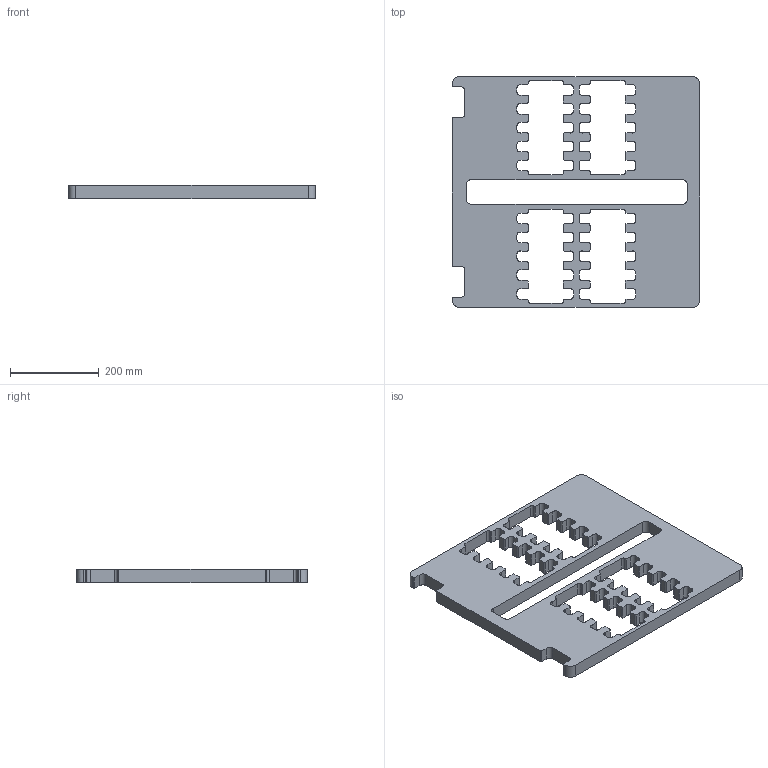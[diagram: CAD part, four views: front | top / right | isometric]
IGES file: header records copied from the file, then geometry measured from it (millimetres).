
Global section: file name: foam_7 v2; native system: unknown; preprocessor: unknown; author: unknown; organization: unknown; date: 20190311.165355; units: millimetre
Bounding box: 556.83 x 520.32 x 30 mm (x, y, z)
Volume: 5066041.5 mm3; surface area: 554613.6 mm2
Topology: 1 solids, 1 shells, 386 faces, 1152 edges, 768 vertices
Faces by surface type: bspline 386
